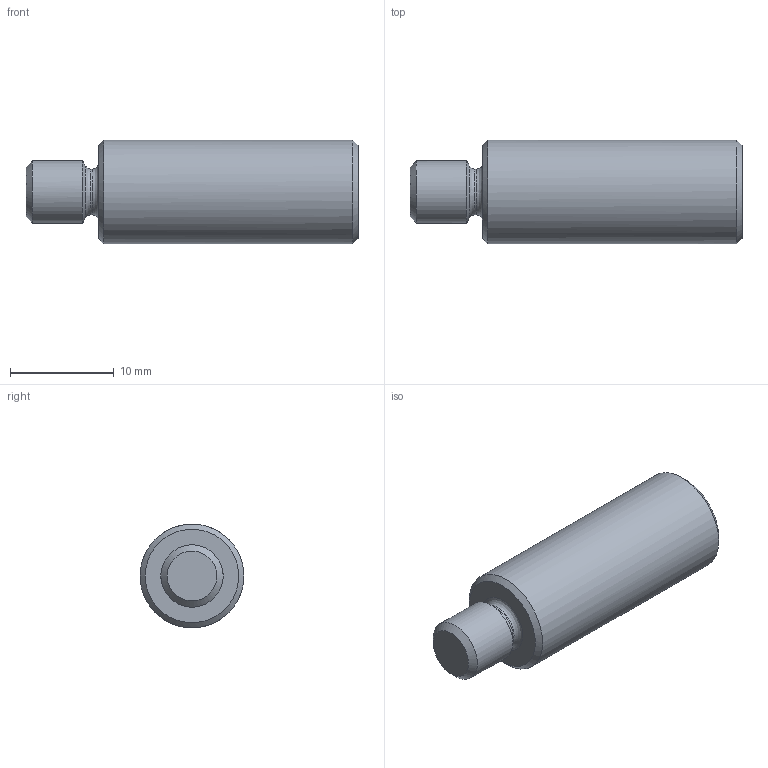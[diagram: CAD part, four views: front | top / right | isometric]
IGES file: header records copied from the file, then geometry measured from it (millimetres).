
Global section: file name: 2025709_A_PSEN ml escape release extension; native system: Autodesk Inventor 2017; preprocessor: unknown; author: rvet; date: 20180123.100119; units: millimetre
Bounding box: 32 x 10 x 10 mm (x, y, z)
Volume: 1895.1 mm3; surface area: 1242.1 mm2
Topology: 1 solids, 1 shells, 15 faces, 40 edges, 28 vertices
Faces by surface type: bspline 15
